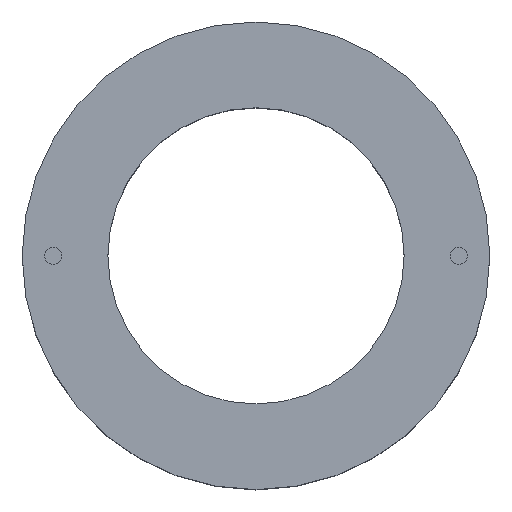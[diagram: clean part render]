
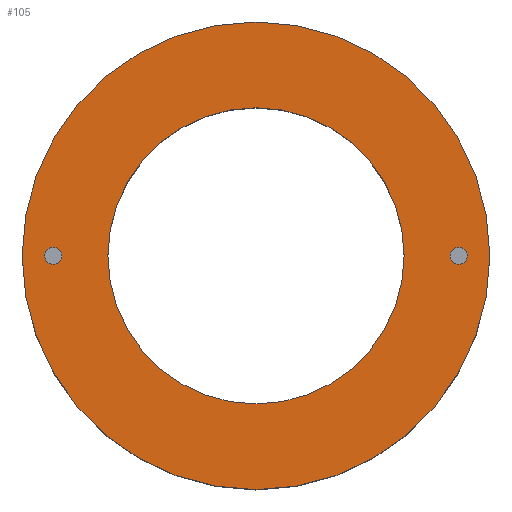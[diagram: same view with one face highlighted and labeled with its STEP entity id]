
A CAD part, top view. The second image highlights one B-rep face of the part: STEP entity #105.
In plain terms, the highlighted planar face has unit normal (0, 0, 1).
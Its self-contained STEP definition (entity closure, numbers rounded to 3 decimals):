
#21 = EDGE_CURVE('',#22,#22,#24,.T.);
#22 = VERTEX_POINT('',#23);
#23 = CARTESIAN_POINT('',(30.,0.,12.));
#24 = SURFACE_CURVE('',#25,(#30,#42),.PCURVE_S1.);
#25 = CIRCLE('',#26,30.);
#26 = AXIS2_PLACEMENT_3D('',#27,#28,#29);
#27 = CARTESIAN_POINT('',(0.,0.,12.));
#28 = DIRECTION('',(0.,0.,1.));
#29 = DIRECTION('',(1.,0.,-0.));
#30 = PCURVE('',#31,#36);
#31 = CYLINDRICAL_SURFACE('',#32,30.);
#32 = AXIS2_PLACEMENT_3D('',#33,#34,#35);
#33 = CARTESIAN_POINT('',(0.,0.,9.));
#34 = DIRECTION('',(0.,0.,1.));
#35 = DIRECTION('',(1.,0.,-0.));
#36 = DEFINITIONAL_REPRESENTATION('',(#37),#41);
#37 = LINE('',#38,#39);
#38 = CARTESIAN_POINT('',(0.,3.));
#39 = VECTOR('',#40,1.);
#40 = DIRECTION('',(1.,0.));
#41 = ( GEOMETRIC_REPRESENTATION_CONTEXT(2) 
PARAMETRIC_REPRESENTATION_CONTEXT() REPRESENTATION_CONTEXT('2D SPACE',''
  ) );
#42 = PCURVE('',#43,#48);
#43 = PLANE('',#44);
#44 = AXIS2_PLACEMENT_3D('',#45,#46,#47);
#45 = CARTESIAN_POINT('',(0.,0.,12.));
#46 = DIRECTION('',(0.,0.,1.));
#47 = DIRECTION('',(1.,0.,-0.));
#48 = DEFINITIONAL_REPRESENTATION('',(#49),#53);
#49 = CIRCLE('',#50,30.);
#50 = AXIS2_PLACEMENT_2D('',#51,#52);
#51 = CARTESIAN_POINT('',(0.,0.));
#52 = DIRECTION('',(1.,0.));
#53 = ( GEOMETRIC_REPRESENTATION_CONTEXT(2) 
PARAMETRIC_REPRESENTATION_CONTEXT() REPRESENTATION_CONTEXT('2D SPACE',''
  ) );
#105 = ADVANCED_FACE('',(#106,#109,#140,#171),#43,.T.);
#106 = FACE_BOUND('',#107,.T.);
#107 = EDGE_LOOP('',(#108));
#108 = ORIENTED_EDGE('',*,*,#21,.T.);
#109 = FACE_BOUND('',#110,.T.);
#110 = EDGE_LOOP('',(#111));
#111 = ORIENTED_EDGE('',*,*,#112,.F.);
#112 = EDGE_CURVE('',#113,#113,#115,.T.);
#113 = VERTEX_POINT('',#114);
#114 = CARTESIAN_POINT('',(-24.9,0.,12.));
#115 = SURFACE_CURVE('',#116,(#121,#128),.PCURVE_S1.);
#116 = CIRCLE('',#117,1.1);
#117 = AXIS2_PLACEMENT_3D('',#118,#119,#120);
#118 = CARTESIAN_POINT('',(-26.,0.,12.));
#119 = DIRECTION('',(0.,0.,1.));
#120 = DIRECTION('',(1.,0.,-0.));
#121 = PCURVE('',#43,#122);
#122 = DEFINITIONAL_REPRESENTATION('',(#123),#127);
#123 = CIRCLE('',#124,1.1);
#124 = AXIS2_PLACEMENT_2D('',#125,#126);
#125 = CARTESIAN_POINT('',(-26.,0.));
#126 = DIRECTION('',(1.,0.));
#127 = ( GEOMETRIC_REPRESENTATION_CONTEXT(2) 
PARAMETRIC_REPRESENTATION_CONTEXT() REPRESENTATION_CONTEXT('2D SPACE',''
  ) );
#128 = PCURVE('',#129,#134);
#129 = CYLINDRICAL_SURFACE('',#130,1.1);
#130 = AXIS2_PLACEMENT_3D('',#131,#132,#133);
#131 = CARTESIAN_POINT('',(-26.,0.,9.));
#132 = DIRECTION('',(0.,0.,1.));
#133 = DIRECTION('',(1.,0.,-0.));
#134 = DEFINITIONAL_REPRESENTATION('',(#135),#139);
#135 = LINE('',#136,#137);
#136 = CARTESIAN_POINT('',(0.,3.));
#137 = VECTOR('',#138,1.);
#138 = DIRECTION('',(1.,0.));
#139 = ( GEOMETRIC_REPRESENTATION_CONTEXT(2) 
PARAMETRIC_REPRESENTATION_CONTEXT() REPRESENTATION_CONTEXT('2D SPACE',''
  ) );
#140 = FACE_BOUND('',#141,.T.);
#141 = EDGE_LOOP('',(#142));
#142 = ORIENTED_EDGE('',*,*,#143,.F.);
#143 = EDGE_CURVE('',#144,#144,#146,.T.);
#144 = VERTEX_POINT('',#145);
#145 = CARTESIAN_POINT('',(19.,0.,12.));
#146 = SURFACE_CURVE('',#147,(#152,#159),.PCURVE_S1.);
#147 = CIRCLE('',#148,19.);
#148 = AXIS2_PLACEMENT_3D('',#149,#150,#151);
#149 = CARTESIAN_POINT('',(0.,0.,12.));
#150 = DIRECTION('',(0.,0.,1.));
#151 = DIRECTION('',(1.,0.,-0.));
#152 = PCURVE('',#43,#153);
#153 = DEFINITIONAL_REPRESENTATION('',(#154),#158);
#154 = CIRCLE('',#155,19.);
#155 = AXIS2_PLACEMENT_2D('',#156,#157);
#156 = CARTESIAN_POINT('',(0.,0.));
#157 = DIRECTION('',(1.,0.));
#158 = ( GEOMETRIC_REPRESENTATION_CONTEXT(2) 
PARAMETRIC_REPRESENTATION_CONTEXT() REPRESENTATION_CONTEXT('2D SPACE',''
  ) );
#159 = PCURVE('',#160,#165);
#160 = CYLINDRICAL_SURFACE('',#161,19.);
#161 = AXIS2_PLACEMENT_3D('',#162,#163,#164);
#162 = CARTESIAN_POINT('',(0.,0.,-13.));
#163 = DIRECTION('',(0.,0.,1.));
#164 = DIRECTION('',(1.,0.,-0.));
#165 = DEFINITIONAL_REPRESENTATION('',(#166),#170);
#166 = LINE('',#167,#168);
#167 = CARTESIAN_POINT('',(0.,25.));
#168 = VECTOR('',#169,1.);
#169 = DIRECTION('',(1.,0.));
#170 = ( GEOMETRIC_REPRESENTATION_CONTEXT(2) 
PARAMETRIC_REPRESENTATION_CONTEXT() REPRESENTATION_CONTEXT('2D SPACE',''
  ) );
#171 = FACE_BOUND('',#172,.T.);
#172 = EDGE_LOOP('',(#173));
#173 = ORIENTED_EDGE('',*,*,#174,.F.);
#174 = EDGE_CURVE('',#175,#175,#177,.T.);
#175 = VERTEX_POINT('',#176);
#176 = CARTESIAN_POINT('',(27.1,0.,12.));
#177 = SURFACE_CURVE('',#178,(#183,#190),.PCURVE_S1.);
#178 = CIRCLE('',#179,1.1);
#179 = AXIS2_PLACEMENT_3D('',#180,#181,#182);
#180 = CARTESIAN_POINT('',(26.,0.,12.));
#181 = DIRECTION('',(0.,0.,1.));
#182 = DIRECTION('',(1.,0.,-0.));
#183 = PCURVE('',#43,#184);
#184 = DEFINITIONAL_REPRESENTATION('',(#185),#189);
#185 = CIRCLE('',#186,1.1);
#186 = AXIS2_PLACEMENT_2D('',#187,#188);
#187 = CARTESIAN_POINT('',(26.,0.));
#188 = DIRECTION('',(1.,0.));
#189 = ( GEOMETRIC_REPRESENTATION_CONTEXT(2) 
PARAMETRIC_REPRESENTATION_CONTEXT() REPRESENTATION_CONTEXT('2D SPACE',''
  ) );
#190 = PCURVE('',#191,#196);
#191 = CYLINDRICAL_SURFACE('',#192,1.1);
#192 = AXIS2_PLACEMENT_3D('',#193,#194,#195);
#193 = CARTESIAN_POINT('',(26.,0.,9.));
#194 = DIRECTION('',(0.,0.,1.));
#195 = DIRECTION('',(1.,0.,-0.));
#196 = DEFINITIONAL_REPRESENTATION('',(#197),#201);
#197 = LINE('',#198,#199);
#198 = CARTESIAN_POINT('',(0.,3.));
#199 = VECTOR('',#200,1.);
#200 = DIRECTION('',(1.,0.));
#201 = ( GEOMETRIC_REPRESENTATION_CONTEXT(2) 
PARAMETRIC_REPRESENTATION_CONTEXT() REPRESENTATION_CONTEXT('2D SPACE',''
  ) );
